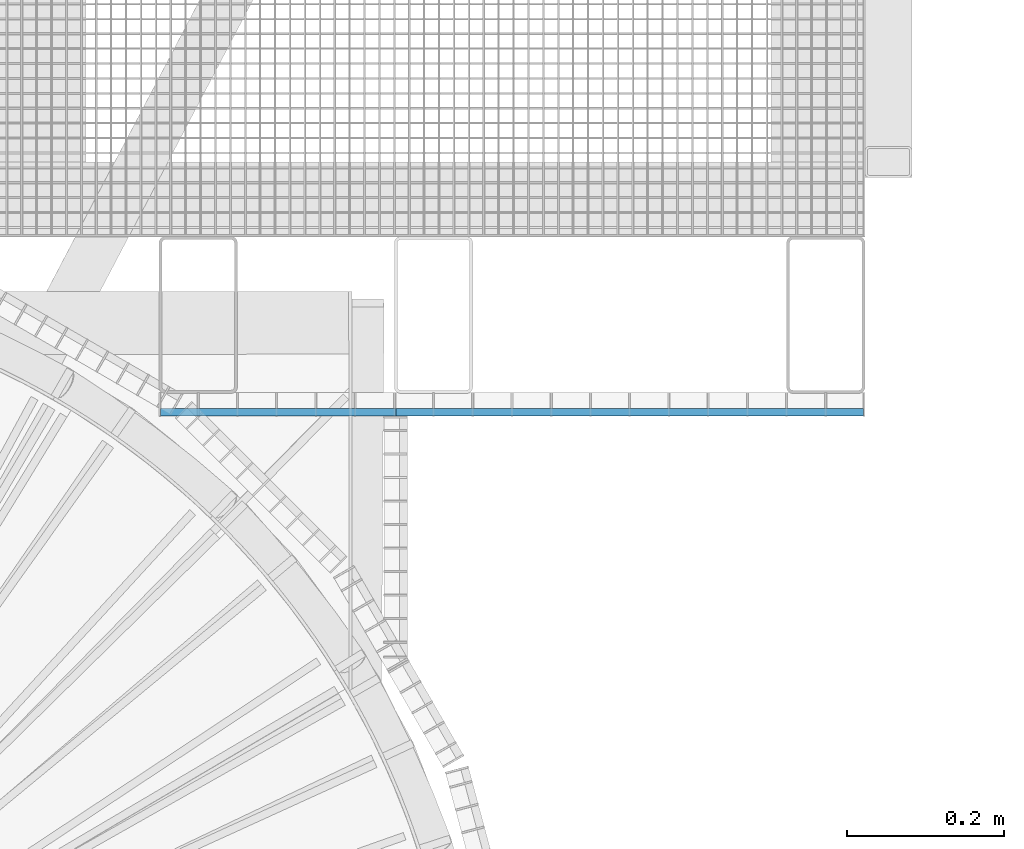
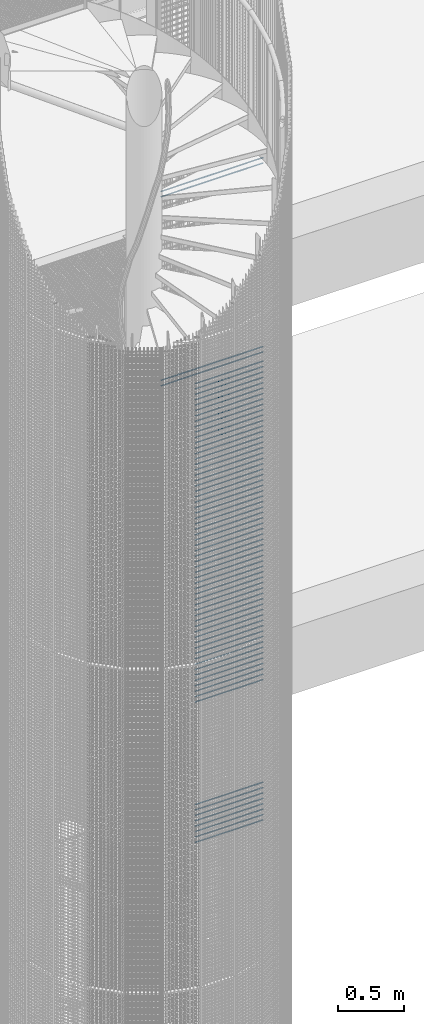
# One storey, part 306 of 1183: 72 beams, 2 elements without a shape of their own.
"""IFC2X3 building model written with IfcOpenShell, lengths in millimetres."""

from ifc_helpers import new_model, si_unit, frame, origin_with_axes, origin_2d_with_axis, place, context, subcontext, project, spatial, rectangle, extrude, material, type_object, element, aggregate, save


model = new_model("IFC2X3")

# Units and contexts
model_context = context("Model", 3, precision=1e-05, world=origin_with_axes())
body_context = subcontext(model_context, "Body", "Model", "MODEL_VIEW")
ifc_project = project(units=[si_unit("LENGTHUNIT", "METRE", prefix="MILLI"), si_unit("AREAUNIT", "SQUARE_METRE"), si_unit("VOLUMEUNIT", "CUBIC_METRE"), si_unit("MASSUNIT", "GRAM", prefix="KILO"), si_unit("TIMEUNIT", "SECOND"), si_unit("PLANEANGLEUNIT", "RADIAN"), si_unit("SOLIDANGLEUNIT", "STERADIAN"), si_unit("THERMODYNAMICTEMPERATUREUNIT", "DEGREE_CELSIUS"), si_unit("LUMINOUSINTENSITYUNIT", "LUMEN")], contexts=[model_context])

# Site, building, storey
site_placement = place(None, origin_with_axes())
site = spatial("IfcSite", under=ifc_project, at=site_placement, Name="Undefined", CompositionType="ELEMENT")
building_placement = place(site_placement, origin_with_axes())
building = spatial("IfcBuilding", under=site, at=building_placement, Name="Undefined", CompositionType="ELEMENT")
storey_placement = place(building_placement, origin_with_axes())
storey = spatial("IfcBuildingStorey", under=building, at=storey_placement, Name="Undefined", CompositionType="ELEMENT", Elevation=0.0)

# Assembly, beams
assembly_1_placement = place(storey_placement, origin_with_axes())
assembly_1 = element("IfcElementAssembly", 1, at=assembly_1_placement, inside=storey, Name="BORDURE", AssemblyPlace="NOTDEFINED", PredefinedType="NOTDEFINED")
ifc_material = material(Name="STEEL/S235JR")
beam_type = type_object("IfcBeamType", Name="PL2*10", PredefinedType="NOTDEFINED")
beam_1_placement = place(assembly_1_placement, frame((652.069589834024, 876.014689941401, 10139.998), z_axis=(0.0, -1.0, 0.0), x_axis=(1.0, 0.0, 0.0)))
beam_1 = element("IfcBeam", 2, at=beam_1_placement, type_object=beam_type, material=ifc_material, Name="ENTRETOISE", context=body_context, shape_type="SweptSolid", body=[
    extrude(rectangle(XDim=2.0, YDim=10.0, at=origin_2d_with_axis()), frame((896.0, 0.0, 0.0), z_axis=(-1.0, 0.0, 0.0), x_axis=(0.0, -1.0, 0.0)), (0.0, 0.0, 1.0), 896.0),
])
beam_2_placement = place(assembly_1_placement, frame((652.069589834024, 876.014689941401, 11839.998), z_axis=(0.0, -1.0, 0.0), x_axis=(1.0, 0.0, 0.0)))
beam_2 = element("IfcBeam", 3, at=beam_2_placement, type_object=beam_type, material=ifc_material, Name="ENTRETOISE", context=body_context, shape_type="SweptSolid", body=[
    extrude(rectangle(XDim=2.0, YDim=10.0, at=origin_2d_with_axis()), frame((896.0, 0.0, 0.0), z_axis=(-1.0, 0.0, 0.0), x_axis=(0.0, -1.0, 0.0)), (0.0, 0.0, 1.0), 896.0),
])
beam_3_placement = place(assembly_1_placement, frame((652.069589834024, 876.014689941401, 11889.998), z_axis=(0.0, -1.0, 0.0), x_axis=(1.0, 0.0, 0.0)))
beam_3 = element("IfcBeam", 4, at=beam_3_placement, type_object=beam_type, material=ifc_material, Name="ENTRETOISE", context=body_context, shape_type="SweptSolid", body=[
    extrude(rectangle(XDim=2.0, YDim=10.0, at=origin_2d_with_axis()), frame((896.0, 0.0, 0.0), z_axis=(-1.0, 0.0, 0.0), x_axis=(0.0, -1.0, 0.0)), (0.0, 0.0, 1.0), 896.0),
])
beam_4_placement = place(assembly_1_placement, frame((652.069589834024, 876.014689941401, 10089.998), z_axis=(0.0, -1.0, 0.0), x_axis=(1.0, 0.0, 0.0)))
beam_4 = element("IfcBeam", 5, at=beam_4_placement, type_object=beam_type, material=ifc_material, Name="ENTRETOISE", context=body_context, shape_type="SweptSolid", body=[
    extrude(rectangle(XDim=2.0, YDim=10.0, at=origin_2d_with_axis()), frame((896.0, 0.0, 0.0), z_axis=(-1.0, 0.0, 0.0), x_axis=(0.0, -1.0, 0.0)), (0.0, 0.0, 1.0), 896.0),
])
aggregate(assembly_1, [beam_1, beam_2, beam_3, beam_4])

assembly_2_placement = place(storey_placement, origin_with_axes())
assembly_2 = element("IfcElementAssembly", 6, at=assembly_2_placement, inside=storey, Name="BORDURE", AssemblyPlace="NOTDEFINED", PredefinedType="NOTDEFINED")
beam_5_placement = place(assembly_2_placement, frame((952.069589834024, 876.014689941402, 10004.998), z_axis=(0.0, -1.0, 0.0), x_axis=(1.0, 0.0, 0.0)))
beam_5 = element("IfcBeam", 7, at=beam_5_placement, type_object=beam_type, material=ifc_material, Name="ENTRETOISE", context=body_context, shape_type="SweptSolid", body=[
    extrude(rectangle(XDim=2.0, YDim=10.0, at=origin_2d_with_axis()), frame((596.0, 0.0, 0.0), z_axis=(-1.0, 0.0, 0.0), x_axis=(0.0, -1.0, 0.0)), (0.0, 0.0, 1.0), 596.0),
])
beam_6_placement = place(assembly_2_placement, frame((952.069589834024, 876.014689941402, 9954.998), z_axis=(0.0, -1.0, 0.0), x_axis=(1.0, 0.0, 0.0)))
beam_6 = element("IfcBeam", 8, at=beam_6_placement, type_object=beam_type, material=ifc_material, Name="ENTRETOISE", context=body_context, shape_type="SweptSolid", body=[
    extrude(rectangle(XDim=2.0, YDim=10.0, at=origin_2d_with_axis()), frame((596.0, 0.0, 0.0), z_axis=(-1.0, 0.0, 0.0), x_axis=(0.0, -1.0, 0.0)), (0.0, 0.0, 1.0), 596.0),
])
beam_7_placement = place(assembly_2_placement, frame((952.069589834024, 876.014689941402, 9904.998), z_axis=(0.0, -1.0, 0.0), x_axis=(1.0, 0.0, 0.0)))
beam_7 = element("IfcBeam", 9, at=beam_7_placement, type_object=beam_type, material=ifc_material, Name="ENTRETOISE", context=body_context, shape_type="SweptSolid", body=[
    extrude(rectangle(XDim=2.0, YDim=10.0, at=origin_2d_with_axis()), frame((596.0, 0.0, 0.0), z_axis=(-1.0, 0.0, 0.0), x_axis=(0.0, -1.0, 0.0)), (0.0, 0.0, 1.0), 596.0),
])
beam_8_placement = place(assembly_2_placement, frame((952.069589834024, 876.014689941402, 9854.998), z_axis=(0.0, -1.0, 0.0), x_axis=(1.0, 0.0, 0.0)))
beam_8 = element("IfcBeam", 10, at=beam_8_placement, type_object=beam_type, material=ifc_material, Name="ENTRETOISE", context=body_context, shape_type="SweptSolid", body=[
    extrude(rectangle(XDim=2.0, YDim=10.0, at=origin_2d_with_axis()), frame((596.0, 0.0, 0.0), z_axis=(-1.0, 0.0, 0.0), x_axis=(0.0, -1.0, 0.0)), (0.0, 0.0, 1.0), 596.0),
])
beam_9_placement = place(assembly_2_placement, frame((952.069589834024, 876.014689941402, 9804.998), z_axis=(0.0, -1.0, 0.0), x_axis=(1.0, 0.0, 0.0)))
beam_9 = element("IfcBeam", 11, at=beam_9_placement, type_object=beam_type, material=ifc_material, Name="ENTRETOISE", context=body_context, shape_type="SweptSolid", body=[
    extrude(rectangle(XDim=2.0, YDim=10.0, at=origin_2d_with_axis()), frame((596.0, 0.0, 0.0), z_axis=(-1.0, 0.0, 0.0), x_axis=(0.0, -1.0, 0.0)), (0.0, 0.0, 1.0), 596.0),
])
beam_10_placement = place(assembly_2_placement, frame((952.069589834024, 876.014689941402, 9754.998), z_axis=(0.0, -1.0, 0.0), x_axis=(1.0, 0.0, 0.0)))
beam_10 = element("IfcBeam", 12, at=beam_10_placement, type_object=beam_type, material=ifc_material, Name="ENTRETOISE", context=body_context, shape_type="SweptSolid", body=[
    extrude(rectangle(XDim=2.0, YDim=10.0, at=origin_2d_with_axis()), frame((596.0, 0.0, 0.0), z_axis=(-1.0, 0.0, 0.0), x_axis=(0.0, -1.0, 0.0)), (0.0, 0.0, 1.0), 596.0),
])
beam_11_placement = place(assembly_2_placement, frame((952.069589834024, 876.014689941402, 9704.998), z_axis=(0.0, -1.0, 0.0), x_axis=(1.0, 0.0, 0.0)))
beam_11 = element("IfcBeam", 13, at=beam_11_placement, type_object=beam_type, material=ifc_material, Name="ENTRETOISE", context=body_context, shape_type="SweptSolid", body=[
    extrude(rectangle(XDim=2.0, YDim=10.0, at=origin_2d_with_axis()), frame((596.0, 0.0, 0.0), z_axis=(-1.0, 0.0, 0.0), x_axis=(0.0, -1.0, 0.0)), (0.0, 0.0, 1.0), 596.0),
])
beam_12_placement = place(assembly_2_placement, frame((952.069589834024, 876.014689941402, 9654.998), z_axis=(0.0, -1.0, 0.0), x_axis=(1.0, 0.0, 0.0)))
beam_12 = element("IfcBeam", 14, at=beam_12_placement, type_object=beam_type, material=ifc_material, Name="ENTRETOISE", context=body_context, shape_type="SweptSolid", body=[
    extrude(rectangle(XDim=2.0, YDim=10.0, at=origin_2d_with_axis()), frame((596.0, 0.0, 0.0), z_axis=(-1.0, 0.0, 0.0), x_axis=(0.0, -1.0, 0.0)), (0.0, 0.0, 1.0), 596.0),
])
beam_13_placement = place(assembly_2_placement, frame((952.069589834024, 876.014689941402, 9604.998), z_axis=(0.0, -1.0, 0.0), x_axis=(1.0, 0.0, 0.0)))
beam_13 = element("IfcBeam", 15, at=beam_13_placement, type_object=beam_type, material=ifc_material, Name="ENTRETOISE", context=body_context, shape_type="SweptSolid", body=[
    extrude(rectangle(XDim=2.0, YDim=10.0, at=origin_2d_with_axis()), frame((596.0, 0.0, 0.0), z_axis=(-1.0, 0.0, 0.0), x_axis=(0.0, -1.0, 0.0)), (0.0, 0.0, 1.0), 596.0),
])
beam_14_placement = place(assembly_2_placement, frame((952.069589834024, 876.014689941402, 9554.998), z_axis=(0.0, -1.0, 0.0), x_axis=(1.0, 0.0, 0.0)))
beam_14 = element("IfcBeam", 16, at=beam_14_placement, type_object=beam_type, material=ifc_material, Name="ENTRETOISE", context=body_context, shape_type="SweptSolid", body=[
    extrude(rectangle(XDim=2.0, YDim=10.0, at=origin_2d_with_axis()), frame((596.0, 0.0, 0.0), z_axis=(-1.0, 0.0, 0.0), x_axis=(0.0, -1.0, 0.0)), (0.0, 0.0, 1.0), 596.0),
])
beam_15_placement = place(assembly_2_placement, frame((952.069589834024, 876.014689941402, 9504.998), z_axis=(0.0, -1.0, 0.0), x_axis=(1.0, 0.0, 0.0)))
beam_15 = element("IfcBeam", 17, at=beam_15_placement, type_object=beam_type, material=ifc_material, Name="ENTRETOISE", context=body_context, shape_type="SweptSolid", body=[
    extrude(rectangle(XDim=2.0, YDim=10.0, at=origin_2d_with_axis()), frame((596.0, 0.0, 0.0), z_axis=(-1.0, 0.0, 0.0), x_axis=(0.0, -1.0, 0.0)), (0.0, 0.0, 1.0), 596.0),
])
beam_16_placement = place(assembly_2_placement, frame((952.069589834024, 876.014689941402, 9454.998), z_axis=(0.0, -1.0, 0.0), x_axis=(1.0, 0.0, 0.0)))
beam_16 = element("IfcBeam", 18, at=beam_16_placement, type_object=beam_type, material=ifc_material, Name="ENTRETOISE", context=body_context, shape_type="SweptSolid", body=[
    extrude(rectangle(XDim=2.0, YDim=10.0, at=origin_2d_with_axis()), frame((596.0, 0.0, 0.0), z_axis=(-1.0, 0.0, 0.0), x_axis=(0.0, -1.0, 0.0)), (0.0, 0.0, 1.0), 596.0),
])
beam_17_placement = place(assembly_2_placement, frame((952.069589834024, 876.014689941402, 9404.998), z_axis=(0.0, -1.0, 0.0), x_axis=(1.0, 0.0, 0.0)))
beam_17 = element("IfcBeam", 19, at=beam_17_placement, type_object=beam_type, material=ifc_material, Name="ENTRETOISE", context=body_context, shape_type="SweptSolid", body=[
    extrude(rectangle(XDim=2.0, YDim=10.0, at=origin_2d_with_axis()), frame((596.0, 0.0, 0.0), z_axis=(-1.0, 0.0, 0.0), x_axis=(0.0, -1.0, 0.0)), (0.0, 0.0, 1.0), 596.0),
])
beam_18_placement = place(assembly_2_placement, frame((952.069589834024, 876.014689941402, 9354.998), z_axis=(0.0, -1.0, 0.0), x_axis=(1.0, 0.0, 0.0)))
beam_18 = element("IfcBeam", 20, at=beam_18_placement, type_object=beam_type, material=ifc_material, Name="ENTRETOISE", context=body_context, shape_type="SweptSolid", body=[
    extrude(rectangle(XDim=2.0, YDim=10.0, at=origin_2d_with_axis()), frame((596.0, 0.0, 0.0), z_axis=(-1.0, 0.0, 0.0), x_axis=(0.0, -1.0, 0.0)), (0.0, 0.0, 1.0), 596.0),
])
beam_19_placement = place(assembly_2_placement, frame((952.069589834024, 876.014689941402, 9304.998), z_axis=(0.0, -1.0, 0.0), x_axis=(1.0, 0.0, 0.0)))
beam_19 = element("IfcBeam", 21, at=beam_19_placement, type_object=beam_type, material=ifc_material, Name="ENTRETOISE", context=body_context, shape_type="SweptSolid", body=[
    extrude(rectangle(XDim=2.0, YDim=10.0, at=origin_2d_with_axis()), frame((596.0, 0.0, 0.0), z_axis=(-1.0, 0.0, 0.0), x_axis=(0.0, -1.0, 0.0)), (0.0, 0.0, 1.0), 596.0),
])
beam_20_placement = place(assembly_2_placement, frame((952.069589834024, 876.014689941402, 9254.998), z_axis=(0.0, -1.0, 0.0), x_axis=(1.0, 0.0, 0.0)))
beam_20 = element("IfcBeam", 22, at=beam_20_placement, type_object=beam_type, material=ifc_material, Name="ENTRETOISE", context=body_context, shape_type="SweptSolid", body=[
    extrude(rectangle(XDim=2.0, YDim=10.0, at=origin_2d_with_axis()), frame((596.0, 0.0, 0.0), z_axis=(-1.0, 0.0, 0.0), x_axis=(0.0, -1.0, 0.0)), (0.0, 0.0, 1.0), 596.0),
])
beam_21_placement = place(assembly_2_placement, frame((952.069589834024, 876.014689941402, 9204.998), z_axis=(0.0, -1.0, 0.0), x_axis=(1.0, 0.0, 0.0)))
beam_21 = element("IfcBeam", 23, at=beam_21_placement, type_object=beam_type, material=ifc_material, Name="ENTRETOISE", context=body_context, shape_type="SweptSolid", body=[
    extrude(rectangle(XDim=2.0, YDim=10.0, at=origin_2d_with_axis()), frame((596.0, 0.0, 0.0), z_axis=(-1.0, 0.0, 0.0), x_axis=(0.0, -1.0, 0.0)), (0.0, 0.0, 1.0), 596.0),
])
beam_22_placement = place(assembly_2_placement, frame((952.069589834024, 876.014689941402, 9154.998), z_axis=(0.0, -1.0, 0.0), x_axis=(1.0, 0.0, 0.0)))
beam_22 = element("IfcBeam", 24, at=beam_22_placement, type_object=beam_type, material=ifc_material, Name="ENTRETOISE", context=body_context, shape_type="SweptSolid", body=[
    extrude(rectangle(XDim=2.0, YDim=10.0, at=origin_2d_with_axis()), frame((596.0, 0.0, 0.0), z_axis=(-1.0, 0.0, 0.0), x_axis=(0.0, -1.0, 0.0)), (0.0, 0.0, 1.0), 596.0),
])
beam_23_placement = place(assembly_2_placement, frame((952.069589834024, 876.014689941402, 9104.998), z_axis=(0.0, -1.0, 0.0), x_axis=(1.0, 0.0, 0.0)))
beam_23 = element("IfcBeam", 25, at=beam_23_placement, type_object=beam_type, material=ifc_material, Name="ENTRETOISE", context=body_context, shape_type="SweptSolid", body=[
    extrude(rectangle(XDim=2.0, YDim=10.0, at=origin_2d_with_axis()), frame((596.0, 0.0, 0.0), z_axis=(-1.0, 0.0, 0.0), x_axis=(0.0, -1.0, 0.0)), (0.0, 0.0, 1.0), 596.0),
])
beam_24_placement = place(assembly_2_placement, frame((952.069589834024, 876.014689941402, 9054.998), z_axis=(0.0, -1.0, 0.0), x_axis=(1.0, 0.0, 0.0)))
beam_24 = element("IfcBeam", 26, at=beam_24_placement, type_object=beam_type, material=ifc_material, Name="ENTRETOISE", context=body_context, shape_type="SweptSolid", body=[
    extrude(rectangle(XDim=2.0, YDim=10.0, at=origin_2d_with_axis()), frame((596.0, 0.0, 0.0), z_axis=(-1.0, 0.0, 0.0), x_axis=(0.0, -1.0, 0.0)), (0.0, 0.0, 1.0), 596.0),
])
beam_25_placement = place(assembly_2_placement, frame((952.069589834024, 876.014689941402, 9004.998), z_axis=(0.0, -1.0, 0.0), x_axis=(1.0, 0.0, 0.0)))
beam_25 = element("IfcBeam", 27, at=beam_25_placement, type_object=beam_type, material=ifc_material, Name="ENTRETOISE", context=body_context, shape_type="SweptSolid", body=[
    extrude(rectangle(XDim=2.0, YDim=10.0, at=origin_2d_with_axis()), frame((596.0, 0.0, 0.0), z_axis=(-1.0, 0.0, 0.0), x_axis=(0.0, -1.0, 0.0)), (0.0, 0.0, 1.0), 596.0),
])
beam_26_placement = place(assembly_2_placement, frame((952.069589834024, 876.014689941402, 8954.998), z_axis=(0.0, -1.0, 0.0), x_axis=(1.0, 0.0, 0.0)))
beam_26 = element("IfcBeam", 28, at=beam_26_placement, type_object=beam_type, material=ifc_material, Name="ENTRETOISE", context=body_context, shape_type="SweptSolid", body=[
    extrude(rectangle(XDim=2.0, YDim=10.0, at=origin_2d_with_axis()), frame((596.0, 0.0, 0.0), z_axis=(-1.0, 0.0, 0.0), x_axis=(0.0, -1.0, 0.0)), (0.0, 0.0, 1.0), 596.0),
])
beam_27_placement = place(assembly_2_placement, frame((952.069589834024, 876.014689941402, 8904.998), z_axis=(0.0, -1.0, 0.0), x_axis=(1.0, 0.0, 0.0)))
beam_27 = element("IfcBeam", 29, at=beam_27_placement, type_object=beam_type, material=ifc_material, Name="ENTRETOISE", context=body_context, shape_type="SweptSolid", body=[
    extrude(rectangle(XDim=2.0, YDim=10.0, at=origin_2d_with_axis()), frame((596.0, 0.0, 0.0), z_axis=(-1.0, 0.0, 0.0), x_axis=(0.0, -1.0, 0.0)), (0.0, 0.0, 1.0), 596.0),
])
beam_28_placement = place(assembly_2_placement, frame((952.069589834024, 876.014689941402, 8854.998), z_axis=(0.0, -1.0, 0.0), x_axis=(1.0, 0.0, 0.0)))
beam_28 = element("IfcBeam", 30, at=beam_28_placement, type_object=beam_type, material=ifc_material, Name="ENTRETOISE", context=body_context, shape_type="SweptSolid", body=[
    extrude(rectangle(XDim=2.0, YDim=10.0, at=origin_2d_with_axis()), frame((596.0, 0.0, 0.0), z_axis=(-1.0, 0.0, 0.0), x_axis=(0.0, -1.0, 0.0)), (0.0, 0.0, 1.0), 596.0),
])
beam_29_placement = place(assembly_2_placement, frame((952.069589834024, 876.014689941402, 8804.998), z_axis=(0.0, -1.0, 0.0), x_axis=(1.0, 0.0, 0.0)))
beam_29 = element("IfcBeam", 31, at=beam_29_placement, type_object=beam_type, material=ifc_material, Name="ENTRETOISE", context=body_context, shape_type="SweptSolid", body=[
    extrude(rectangle(XDim=2.0, YDim=10.0, at=origin_2d_with_axis()), frame((596.0, 0.0, 0.0), z_axis=(-1.0, 0.0, 0.0), x_axis=(0.0, -1.0, 0.0)), (0.0, 0.0, 1.0), 596.0),
])
beam_30_placement = place(assembly_2_placement, frame((952.069589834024, 876.014689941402, 8754.998), z_axis=(0.0, -1.0, 0.0), x_axis=(1.0, 0.0, 0.0)))
beam_30 = element("IfcBeam", 32, at=beam_30_placement, type_object=beam_type, material=ifc_material, Name="ENTRETOISE", context=body_context, shape_type="SweptSolid", body=[
    extrude(rectangle(XDim=2.0, YDim=10.0, at=origin_2d_with_axis()), frame((596.0, 0.0, 0.0), z_axis=(-1.0, 0.0, 0.0), x_axis=(0.0, -1.0, 0.0)), (0.0, 0.0, 1.0), 596.0),
])
beam_31_placement = place(assembly_2_placement, frame((952.069589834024, 876.014689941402, 8704.998), z_axis=(0.0, -1.0, 0.0), x_axis=(1.0, 0.0, 0.0)))
beam_31 = element("IfcBeam", 33, at=beam_31_placement, type_object=beam_type, material=ifc_material, Name="ENTRETOISE", context=body_context, shape_type="SweptSolid", body=[
    extrude(rectangle(XDim=2.0, YDim=10.0, at=origin_2d_with_axis()), frame((596.0, 0.0, 0.0), z_axis=(-1.0, 0.0, 0.0), x_axis=(0.0, -1.0, 0.0)), (0.0, 0.0, 1.0), 596.0),
])
beam_32_placement = place(assembly_2_placement, frame((952.069589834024, 876.014689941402, 8654.998), z_axis=(0.0, -1.0, 0.0), x_axis=(1.0, 0.0, 0.0)))
beam_32 = element("IfcBeam", 34, at=beam_32_placement, type_object=beam_type, material=ifc_material, Name="ENTRETOISE", context=body_context, shape_type="SweptSolid", body=[
    extrude(rectangle(XDim=2.0, YDim=10.0, at=origin_2d_with_axis()), frame((596.0, 0.0, 0.0), z_axis=(-1.0, 0.0, 0.0), x_axis=(0.0, -1.0, 0.0)), (0.0, 0.0, 1.0), 596.0),
])
beam_33_placement = place(assembly_2_placement, frame((952.069589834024, 876.014689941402, 8604.998), z_axis=(0.0, -1.0, 0.0), x_axis=(1.0, 0.0, 0.0)))
beam_33 = element("IfcBeam", 35, at=beam_33_placement, type_object=beam_type, material=ifc_material, Name="ENTRETOISE", context=body_context, shape_type="SweptSolid", body=[
    extrude(rectangle(XDim=2.0, YDim=10.0, at=origin_2d_with_axis()), frame((596.0, 0.0, 0.0), z_axis=(-1.0, 0.0, 0.0), x_axis=(0.0, -1.0, 0.0)), (0.0, 0.0, 1.0), 596.0),
])
beam_34_placement = place(assembly_2_placement, frame((952.069589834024, 876.014689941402, 8554.998), z_axis=(0.0, -1.0, 0.0), x_axis=(1.0, 0.0, 0.0)))
beam_34 = element("IfcBeam", 36, at=beam_34_placement, type_object=beam_type, material=ifc_material, Name="ENTRETOISE", context=body_context, shape_type="SweptSolid", body=[
    extrude(rectangle(XDim=2.0, YDim=10.0, at=origin_2d_with_axis()), frame((596.0, 0.0, 0.0), z_axis=(-1.0, 0.0, 0.0), x_axis=(0.0, -1.0, 0.0)), (0.0, 0.0, 1.0), 596.0),
])
beam_35_placement = place(assembly_2_placement, frame((952.069589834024, 876.014689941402, 8504.998), z_axis=(0.0, -1.0, 0.0), x_axis=(1.0, 0.0, 0.0)))
beam_35 = element("IfcBeam", 37, at=beam_35_placement, type_object=beam_type, material=ifc_material, Name="ENTRETOISE", context=body_context, shape_type="SweptSolid", body=[
    extrude(rectangle(XDim=2.0, YDim=10.0, at=origin_2d_with_axis()), frame((596.0, 0.0, 0.0), z_axis=(-1.0, 0.0, 0.0), x_axis=(0.0, -1.0, 0.0)), (0.0, 0.0, 1.0), 596.0),
])
beam_36_placement = place(assembly_2_placement, frame((952.069589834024, 876.014689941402, 8454.998), z_axis=(0.0, -1.0, 0.0), x_axis=(1.0, 0.0, 0.0)))
beam_36 = element("IfcBeam", 38, at=beam_36_placement, type_object=beam_type, material=ifc_material, Name="ENTRETOISE", context=body_context, shape_type="SweptSolid", body=[
    extrude(rectangle(XDim=2.0, YDim=10.0, at=origin_2d_with_axis()), frame((596.0, 0.0, 0.0), z_axis=(-1.0, 0.0, 0.0), x_axis=(0.0, -1.0, 0.0)), (0.0, 0.0, 1.0), 596.0),
])
beam_37_placement = place(assembly_2_placement, frame((952.069589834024, 876.014689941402, 8404.998), z_axis=(0.0, -1.0, 0.0), x_axis=(1.0, 0.0, 0.0)))
beam_37 = element("IfcBeam", 39, at=beam_37_placement, type_object=beam_type, material=ifc_material, Name="ENTRETOISE", context=body_context, shape_type="SweptSolid", body=[
    extrude(rectangle(XDim=2.0, YDim=10.0, at=origin_2d_with_axis()), frame((596.0, 0.0, 0.0), z_axis=(-1.0, 0.0, 0.0), x_axis=(0.0, -1.0, 0.0)), (0.0, 0.0, 1.0), 596.0),
])
beam_38_placement = place(assembly_2_placement, frame((952.069589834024, 876.014689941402, 8354.998), z_axis=(0.0, -1.0, 0.0), x_axis=(1.0, 0.0, 0.0)))
beam_38 = element("IfcBeam", 40, at=beam_38_placement, type_object=beam_type, material=ifc_material, Name="ENTRETOISE", context=body_context, shape_type="SweptSolid", body=[
    extrude(rectangle(XDim=2.0, YDim=10.0, at=origin_2d_with_axis()), frame((596.0, 0.0, 0.0), z_axis=(-1.0, 0.0, 0.0), x_axis=(0.0, -1.0, 0.0)), (0.0, 0.0, 1.0), 596.0),
])
beam_39_placement = place(assembly_2_placement, frame((952.069589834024, 876.014689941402, 8304.998), z_axis=(0.0, -1.0, 0.0), x_axis=(1.0, 0.0, 0.0)))
beam_39 = element("IfcBeam", 41, at=beam_39_placement, type_object=beam_type, material=ifc_material, Name="ENTRETOISE", context=body_context, shape_type="SweptSolid", body=[
    extrude(rectangle(XDim=2.0, YDim=10.0, at=origin_2d_with_axis()), frame((596.0, 0.0, 0.0), z_axis=(-1.0, 0.0, 0.0), x_axis=(0.0, -1.0, 0.0)), (0.0, 0.0, 1.0), 596.0),
])
beam_40_placement = place(assembly_2_placement, frame((952.069589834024, 876.014689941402, 8254.998), z_axis=(0.0, -1.0, 0.0), x_axis=(1.0, 0.0, 0.0)))
beam_40 = element("IfcBeam", 42, at=beam_40_placement, type_object=beam_type, material=ifc_material, Name="ENTRETOISE", context=body_context, shape_type="SweptSolid", body=[
    extrude(rectangle(XDim=2.0, YDim=10.0, at=origin_2d_with_axis()), frame((596.0, 0.0, 0.0), z_axis=(-1.0, 0.0, 0.0), x_axis=(0.0, -1.0, 0.0)), (0.0, 0.0, 1.0), 596.0),
])
beam_41_placement = place(assembly_2_placement, frame((952.069589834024, 876.014689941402, 8204.998), z_axis=(0.0, -1.0, 0.0), x_axis=(1.0, 0.0, 0.0)))
beam_41 = element("IfcBeam", 43, at=beam_41_placement, type_object=beam_type, material=ifc_material, Name="ENTRETOISE", context=body_context, shape_type="SweptSolid", body=[
    extrude(rectangle(XDim=2.0, YDim=10.0, at=origin_2d_with_axis()), frame((596.0, 0.0, 0.0), z_axis=(-1.0, 0.0, 0.0), x_axis=(0.0, -1.0, 0.0)), (0.0, 0.0, 1.0), 596.0),
])
beam_42_placement = place(assembly_2_placement, frame((952.069589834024, 876.014689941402, 8154.998), z_axis=(0.0, -1.0, 0.0), x_axis=(1.0, 0.0, 0.0)))
beam_42 = element("IfcBeam", 44, at=beam_42_placement, type_object=beam_type, material=ifc_material, Name="ENTRETOISE", context=body_context, shape_type="SweptSolid", body=[
    extrude(rectangle(XDim=2.0, YDim=10.0, at=origin_2d_with_axis()), frame((596.0, 0.0, 0.0), z_axis=(-1.0, 0.0, 0.0), x_axis=(0.0, -1.0, 0.0)), (0.0, 0.0, 1.0), 596.0),
])
beam_43_placement = place(assembly_2_placement, frame((952.069589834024, 876.014689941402, 8104.998), z_axis=(0.0, -1.0, 0.0), x_axis=(1.0, 0.0, 0.0)))
beam_43 = element("IfcBeam", 45, at=beam_43_placement, type_object=beam_type, material=ifc_material, Name="ENTRETOISE", context=body_context, shape_type="SweptSolid", body=[
    extrude(rectangle(XDim=2.0, YDim=10.0, at=origin_2d_with_axis()), frame((596.0, 0.0, 0.0), z_axis=(-1.0, 0.0, 0.0), x_axis=(0.0, -1.0, 0.0)), (0.0, 0.0, 1.0), 596.0),
])
beam_44_placement = place(assembly_2_placement, frame((952.069589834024, 876.014689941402, 8054.998), z_axis=(0.0, -1.0, 0.0), x_axis=(1.0, 0.0, 0.0)))
beam_44 = element("IfcBeam", 46, at=beam_44_placement, type_object=beam_type, material=ifc_material, Name="ENTRETOISE", context=body_context, shape_type="SweptSolid", body=[
    extrude(rectangle(XDim=2.0, YDim=10.0, at=origin_2d_with_axis()), frame((596.0, 0.0, 0.0), z_axis=(-1.0, 0.0, 0.0), x_axis=(0.0, -1.0, 0.0)), (0.0, 0.0, 1.0), 596.0),
])
beam_45_placement = place(assembly_2_placement, frame((952.069589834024, 876.014689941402, 8004.998), z_axis=(0.0, -1.0, 0.0), x_axis=(1.0, 0.0, 0.0)))
beam_45 = element("IfcBeam", 47, at=beam_45_placement, type_object=beam_type, material=ifc_material, Name="ENTRETOISE", context=body_context, shape_type="SweptSolid", body=[
    extrude(rectangle(XDim=2.0, YDim=10.0, at=origin_2d_with_axis()), frame((596.0, 0.0, 0.0), z_axis=(-1.0, 0.0, 0.0), x_axis=(0.0, -1.0, 0.0)), (0.0, 0.0, 1.0), 596.0),
])
beam_46_placement = place(assembly_2_placement, frame((952.069589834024, 876.014689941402, 7954.998), z_axis=(0.0, -1.0, 0.0), x_axis=(1.0, 0.0, 0.0)))
beam_46 = element("IfcBeam", 48, at=beam_46_placement, type_object=beam_type, material=ifc_material, Name="ENTRETOISE", context=body_context, shape_type="SweptSolid", body=[
    extrude(rectangle(XDim=2.0, YDim=10.0, at=origin_2d_with_axis()), frame((596.0, 0.0, 0.0), z_axis=(-1.0, 0.0, 0.0), x_axis=(0.0, -1.0, 0.0)), (0.0, 0.0, 1.0), 596.0),
])
beam_47_placement = place(assembly_2_placement, frame((952.069589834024, 876.014689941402, 7904.998), z_axis=(0.0, -1.0, 0.0), x_axis=(1.0, 0.0, 0.0)))
beam_47 = element("IfcBeam", 49, at=beam_47_placement, type_object=beam_type, material=ifc_material, Name="ENTRETOISE", context=body_context, shape_type="SweptSolid", body=[
    extrude(rectangle(XDim=2.0, YDim=10.0, at=origin_2d_with_axis()), frame((596.0, 0.0, 0.0), z_axis=(-1.0, 0.0, 0.0), x_axis=(0.0, -1.0, 0.0)), (0.0, 0.0, 1.0), 596.0),
])
beam_48_placement = place(assembly_2_placement, frame((952.069589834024, 876.014689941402, 7854.998), z_axis=(0.0, -1.0, 0.0), x_axis=(1.0, 0.0, 0.0)))
beam_48 = element("IfcBeam", 50, at=beam_48_placement, type_object=beam_type, material=ifc_material, Name="ENTRETOISE", context=body_context, shape_type="SweptSolid", body=[
    extrude(rectangle(XDim=2.0, YDim=10.0, at=origin_2d_with_axis()), frame((596.0, 0.0, 0.0), z_axis=(-1.0, 0.0, 0.0), x_axis=(0.0, -1.0, 0.0)), (0.0, 0.0, 1.0), 596.0),
])
beam_49_placement = place(assembly_2_placement, frame((952.069589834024, 876.014689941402, 7804.998), z_axis=(0.0, -1.0, 0.0), x_axis=(1.0, 0.0, 0.0)))
beam_49 = element("IfcBeam", 51, at=beam_49_placement, type_object=beam_type, material=ifc_material, Name="ENTRETOISE", context=body_context, shape_type="SweptSolid", body=[
    extrude(rectangle(XDim=2.0, YDim=10.0, at=origin_2d_with_axis()), frame((596.0, 0.0, 0.0), z_axis=(-1.0, 0.0, 0.0), x_axis=(0.0, -1.0, 0.0)), (0.0, 0.0, 1.0), 596.0),
])
beam_50_placement = place(assembly_2_placement, frame((952.069589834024, 876.014689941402, 7754.998), z_axis=(0.0, -1.0, 0.0), x_axis=(1.0, 0.0, 0.0)))
beam_50 = element("IfcBeam", 52, at=beam_50_placement, type_object=beam_type, material=ifc_material, Name="ENTRETOISE", context=body_context, shape_type="SweptSolid", body=[
    extrude(rectangle(XDim=2.0, YDim=10.0, at=origin_2d_with_axis()), frame((596.0, 0.0, 0.0), z_axis=(-1.0, 0.0, 0.0), x_axis=(0.0, -1.0, 0.0)), (0.0, 0.0, 1.0), 596.0),
])
beam_51_placement = place(assembly_2_placement, frame((952.069589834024, 876.014689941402, 7704.998), z_axis=(0.0, -1.0, 0.0), x_axis=(1.0, 0.0, 0.0)))
beam_51 = element("IfcBeam", 53, at=beam_51_placement, type_object=beam_type, material=ifc_material, Name="ENTRETOISE", context=body_context, shape_type="SweptSolid", body=[
    extrude(rectangle(XDim=2.0, YDim=10.0, at=origin_2d_with_axis()), frame((596.0, 0.0, 0.0), z_axis=(-1.0, 0.0, 0.0), x_axis=(0.0, -1.0, 0.0)), (0.0, 0.0, 1.0), 596.0),
])
beam_52_placement = place(assembly_2_placement, frame((952.069589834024, 876.014689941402, 7654.998), z_axis=(0.0, -1.0, 0.0), x_axis=(1.0, 0.0, 0.0)))
beam_52 = element("IfcBeam", 54, at=beam_52_placement, type_object=beam_type, material=ifc_material, Name="ENTRETOISE", context=body_context, shape_type="SweptSolid", body=[
    extrude(rectangle(XDim=2.0, YDim=10.0, at=origin_2d_with_axis()), frame((596.0, 0.0, 0.0), z_axis=(-1.0, 0.0, 0.0), x_axis=(0.0, -1.0, 0.0)), (0.0, 0.0, 1.0), 596.0),
])
beam_53_placement = place(assembly_2_placement, frame((952.069589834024, 876.014689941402, 7604.998), z_axis=(0.0, -1.0, 0.0), x_axis=(1.0, 0.0, 0.0)))
beam_53 = element("IfcBeam", 55, at=beam_53_placement, type_object=beam_type, material=ifc_material, Name="ENTRETOISE", context=body_context, shape_type="SweptSolid", body=[
    extrude(rectangle(XDim=2.0, YDim=10.0, at=origin_2d_with_axis()), frame((596.0, 0.0, 0.0), z_axis=(-1.0, 0.0, 0.0), x_axis=(0.0, -1.0, 0.0)), (0.0, 0.0, 1.0), 596.0),
])
beam_54_placement = place(assembly_2_placement, frame((952.069589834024, 876.014689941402, 7554.998), z_axis=(0.0, -1.0, 0.0), x_axis=(1.0, 0.0, 0.0)))
beam_54 = element("IfcBeam", 56, at=beam_54_placement, type_object=beam_type, material=ifc_material, Name="ENTRETOISE", context=body_context, shape_type="SweptSolid", body=[
    extrude(rectangle(XDim=2.0, YDim=10.0, at=origin_2d_with_axis()), frame((596.0, 0.0, 0.0), z_axis=(-1.0, 0.0, 0.0), x_axis=(0.0, -1.0, 0.0)), (0.0, 0.0, 1.0), 596.0),
])
beam_55_placement = place(assembly_2_placement, frame((952.069589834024, 876.014689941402, 7504.998), z_axis=(0.0, -1.0, 0.0), x_axis=(1.0, 0.0, 0.0)))
beam_55 = element("IfcBeam", 57, at=beam_55_placement, type_object=beam_type, material=ifc_material, Name="ENTRETOISE", context=body_context, shape_type="SweptSolid", body=[
    extrude(rectangle(XDim=2.0, YDim=10.0, at=origin_2d_with_axis()), frame((596.0, 0.0, 0.0), z_axis=(-1.0, 0.0, 0.0), x_axis=(0.0, -1.0, 0.0)), (0.0, 0.0, 1.0), 596.0),
])
beam_56_placement = place(assembly_2_placement, frame((952.069589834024, 876.014689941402, 7454.998), z_axis=(0.0, -1.0, 0.0), x_axis=(1.0, 0.0, 0.0)))
beam_56 = element("IfcBeam", 58, at=beam_56_placement, type_object=beam_type, material=ifc_material, Name="ENTRETOISE", context=body_context, shape_type="SweptSolid", body=[
    extrude(rectangle(XDim=2.0, YDim=10.0, at=origin_2d_with_axis()), frame((596.0, 0.0, 0.0), z_axis=(-1.0, 0.0, 0.0), x_axis=(0.0, -1.0, 0.0)), (0.0, 0.0, 1.0), 596.0),
])
beam_57_placement = place(assembly_2_placement, frame((952.069589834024, 876.014689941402, 7404.998), z_axis=(0.0, -1.0, 0.0), x_axis=(1.0, 0.0, 0.0)))
beam_57 = element("IfcBeam", 59, at=beam_57_placement, type_object=beam_type, material=ifc_material, Name="ENTRETOISE", context=body_context, shape_type="SweptSolid", body=[
    extrude(rectangle(XDim=2.0, YDim=10.0, at=origin_2d_with_axis()), frame((596.0, 0.0, 0.0), z_axis=(-1.0, 0.0, 0.0), x_axis=(0.0, -1.0, 0.0)), (0.0, 0.0, 1.0), 596.0),
])
beam_58_placement = place(assembly_2_placement, frame((952.069589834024, 876.014689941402, 7354.998), z_axis=(0.0, -1.0, 0.0), x_axis=(1.0, 0.0, 0.0)))
beam_58 = element("IfcBeam", 60, at=beam_58_placement, type_object=beam_type, material=ifc_material, Name="ENTRETOISE", context=body_context, shape_type="SweptSolid", body=[
    extrude(rectangle(XDim=2.0, YDim=10.0, at=origin_2d_with_axis()), frame((596.0, 0.0, 0.0), z_axis=(-1.0, 0.0, 0.0), x_axis=(0.0, -1.0, 0.0)), (0.0, 0.0, 1.0), 596.0),
])
beam_59_placement = place(assembly_2_placement, frame((952.069589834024, 876.014689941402, 7304.998), z_axis=(0.0, -1.0, 0.0), x_axis=(1.0, 0.0, 0.0)))
beam_59 = element("IfcBeam", 61, at=beam_59_placement, type_object=beam_type, material=ifc_material, Name="ENTRETOISE", context=body_context, shape_type="SweptSolid", body=[
    extrude(rectangle(XDim=2.0, YDim=10.0, at=origin_2d_with_axis()), frame((596.0, 0.0, 0.0), z_axis=(-1.0, 0.0, 0.0), x_axis=(0.0, -1.0, 0.0)), (0.0, 0.0, 1.0), 596.0),
])
beam_60_placement = place(assembly_2_placement, frame((952.069589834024, 876.014689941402, 7254.998), z_axis=(0.0, -1.0, 0.0), x_axis=(1.0, 0.0, 0.0)))
beam_60 = element("IfcBeam", 62, at=beam_60_placement, type_object=beam_type, material=ifc_material, Name="ENTRETOISE", context=body_context, shape_type="SweptSolid", body=[
    extrude(rectangle(XDim=2.0, YDim=10.0, at=origin_2d_with_axis()), frame((596.0, 0.0, 0.0), z_axis=(-1.0, 0.0, 0.0), x_axis=(0.0, -1.0, 0.0)), (0.0, 0.0, 1.0), 596.0),
])
beam_61_placement = place(assembly_2_placement, frame((952.069589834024, 876.014689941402, 7204.998), z_axis=(0.0, -1.0, 0.0), x_axis=(1.0, 0.0, 0.0)))
beam_61 = element("IfcBeam", 63, at=beam_61_placement, type_object=beam_type, material=ifc_material, Name="ENTRETOISE", context=body_context, shape_type="SweptSolid", body=[
    extrude(rectangle(XDim=2.0, YDim=10.0, at=origin_2d_with_axis()), frame((596.0, 0.0, 0.0), z_axis=(-1.0, 0.0, 0.0), x_axis=(0.0, -1.0, 0.0)), (0.0, 0.0, 1.0), 596.0),
])
beam_62_placement = place(assembly_2_placement, frame((952.069589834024, 876.014689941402, 7154.998), z_axis=(0.0, -1.0, 0.0), x_axis=(1.0, 0.0, 0.0)))
beam_62 = element("IfcBeam", 64, at=beam_62_placement, type_object=beam_type, material=ifc_material, Name="ENTRETOISE", context=body_context, shape_type="SweptSolid", body=[
    extrude(rectangle(XDim=2.0, YDim=10.0, at=origin_2d_with_axis()), frame((596.0, 0.0, 0.0), z_axis=(-1.0, 0.0, 0.0), x_axis=(0.0, -1.0, 0.0)), (0.0, 0.0, 1.0), 596.0),
])
beam_63_placement = place(assembly_2_placement, frame((952.069589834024, 876.014689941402, 7104.998), z_axis=(0.0, -1.0, 0.0), x_axis=(1.0, 0.0, 0.0)))
beam_63 = element("IfcBeam", 65, at=beam_63_placement, type_object=beam_type, material=ifc_material, Name="ENTRETOISE", context=body_context, shape_type="SweptSolid", body=[
    extrude(rectangle(XDim=2.0, YDim=10.0, at=origin_2d_with_axis()), frame((596.0, 0.0, 0.0), z_axis=(-1.0, 0.0, 0.0), x_axis=(0.0, -1.0, 0.0)), (0.0, 0.0, 1.0), 596.0),
])
beam_64_placement = place(assembly_2_placement, frame((952.069589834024, 876.014689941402, 7054.998), z_axis=(0.0, -1.0, 0.0), x_axis=(1.0, 0.0, 0.0)))
beam_64 = element("IfcBeam", 66, at=beam_64_placement, type_object=beam_type, material=ifc_material, Name="ENTRETOISE", context=body_context, shape_type="SweptSolid", body=[
    extrude(rectangle(XDim=2.0, YDim=10.0, at=origin_2d_with_axis()), frame((596.0, 0.0, 0.0), z_axis=(-1.0, 0.0, 0.0), x_axis=(0.0, -1.0, 0.0)), (0.0, 0.0, 1.0), 596.0),
])
beam_65_placement = place(assembly_2_placement, frame((952.069589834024, 876.014689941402, 5904.998), z_axis=(0.0, -1.0, 0.0), x_axis=(1.0, 0.0, 0.0)))
beam_65 = element("IfcBeam", 67, at=beam_65_placement, type_object=beam_type, material=ifc_material, Name="ENTRETOISE", context=body_context, shape_type="SweptSolid", body=[
    extrude(rectangle(XDim=2.0, YDim=10.0, at=origin_2d_with_axis()), frame((596.0, 0.0, 0.0), z_axis=(-1.0, 0.0, 0.0), x_axis=(0.0, -1.0, 0.0)), (0.0, 0.0, 1.0), 596.0),
])
beam_66_placement = place(assembly_2_placement, frame((952.069589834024, 876.014689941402, 5954.998), z_axis=(0.0, -1.0, 0.0), x_axis=(1.0, 0.0, 0.0)))
beam_66 = element("IfcBeam", 68, at=beam_66_placement, type_object=beam_type, material=ifc_material, Name="ENTRETOISE", context=body_context, shape_type="SweptSolid", body=[
    extrude(rectangle(XDim=2.0, YDim=10.0, at=origin_2d_with_axis()), frame((596.0, 0.0, 0.0), z_axis=(-1.0, 0.0, 0.0), x_axis=(0.0, -1.0, 0.0)), (0.0, 0.0, 1.0), 596.0),
])
beam_67_placement = place(assembly_2_placement, frame((952.069589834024, 876.014689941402, 5854.998), z_axis=(0.0, -1.0, 0.0), x_axis=(1.0, 0.0, 0.0)))
beam_67 = element("IfcBeam", 69, at=beam_67_placement, type_object=beam_type, material=ifc_material, Name="ENTRETOISE", context=body_context, shape_type="SweptSolid", body=[
    extrude(rectangle(XDim=2.0, YDim=10.0, at=origin_2d_with_axis()), frame((596.0, 0.0, 0.0), z_axis=(-1.0, 0.0, 0.0), x_axis=(0.0, -1.0, 0.0)), (0.0, 0.0, 1.0), 596.0),
])
beam_68_placement = place(assembly_2_placement, frame((952.069589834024, 876.014689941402, 6004.998), z_axis=(0.0, -1.0, 0.0), x_axis=(1.0, 0.0, 0.0)))
beam_68 = element("IfcBeam", 70, at=beam_68_placement, type_object=beam_type, material=ifc_material, Name="ENTRETOISE", context=body_context, shape_type="SweptSolid", body=[
    extrude(rectangle(XDim=2.0, YDim=10.0, at=origin_2d_with_axis()), frame((596.0, 0.0, 0.0), z_axis=(-1.0, 0.0, 0.0), x_axis=(0.0, -1.0, 0.0)), (0.0, 0.0, 1.0), 596.0),
])
beam_69_placement = place(assembly_2_placement, frame((952.069589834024, 876.014689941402, 5804.998), z_axis=(0.0, -1.0, 0.0), x_axis=(1.0, 0.0, 0.0)))
beam_69 = element("IfcBeam", 71, at=beam_69_placement, type_object=beam_type, material=ifc_material, Name="ENTRETOISE", context=body_context, shape_type="SweptSolid", body=[
    extrude(rectangle(XDim=2.0, YDim=10.0, at=origin_2d_with_axis()), frame((596.0, 0.0, 0.0), z_axis=(-1.0, 0.0, 0.0), x_axis=(0.0, -1.0, 0.0)), (0.0, 0.0, 1.0), 596.0),
])
beam_70_placement = place(assembly_2_placement, frame((952.069589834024, 876.014689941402, 6054.998), z_axis=(0.0, -1.0, 0.0), x_axis=(1.0, 0.0, 0.0)))
beam_70 = element("IfcBeam", 72, at=beam_70_placement, type_object=beam_type, material=ifc_material, Name="ENTRETOISE", context=body_context, shape_type="SweptSolid", body=[
    extrude(rectangle(XDim=2.0, YDim=10.0, at=origin_2d_with_axis()), frame((596.0, 0.0, 0.0), z_axis=(-1.0, 0.0, 0.0), x_axis=(0.0, -1.0, 0.0)), (0.0, 0.0, 1.0), 596.0),
])
beam_71_placement = place(assembly_2_placement, frame((952.069589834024, 876.014689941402, 6104.998), z_axis=(0.0, -1.0, 0.0), x_axis=(1.0, 0.0, 0.0)))
beam_71 = element("IfcBeam", 73, at=beam_71_placement, type_object=beam_type, material=ifc_material, Name="ENTRETOISE", context=body_context, shape_type="SweptSolid", body=[
    extrude(rectangle(XDim=2.0, YDim=10.0, at=origin_2d_with_axis()), frame((596.0, 0.0, 0.0), z_axis=(-1.0, 0.0, 0.0), x_axis=(0.0, -1.0, 0.0)), (0.0, 0.0, 1.0), 596.0),
])
beam_72_placement = place(assembly_2_placement, frame((952.069589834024, 876.014689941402, 5754.998), z_axis=(0.0, -1.0, 0.0), x_axis=(1.0, 0.0, 0.0)))
beam_72 = element("IfcBeam", 74, at=beam_72_placement, type_object=beam_type, material=ifc_material, Name="ENTRETOISE", context=body_context, shape_type="SweptSolid", body=[
    extrude(rectangle(XDim=2.0, YDim=10.0, at=origin_2d_with_axis()), frame((596.0, 0.0, 0.0), z_axis=(-1.0, 0.0, 0.0), x_axis=(0.0, -1.0, 0.0)), (0.0, 0.0, 1.0), 596.0),
])
aggregate(assembly_2, [beam_5, beam_6, beam_7, beam_8, beam_9, beam_10, beam_11, beam_12, beam_13, beam_14, beam_15, beam_16, beam_17, beam_18, beam_19, beam_20, beam_21, beam_22, beam_23, beam_24, beam_25, beam_26, beam_27, beam_28, beam_29, beam_30, beam_31, beam_32, beam_33, beam_34, beam_35, beam_36, beam_37, beam_38, beam_39, beam_40, beam_41, beam_42, beam_43, beam_44, beam_45, beam_46, beam_47, beam_48, beam_49, beam_50, beam_51, beam_52, beam_53, beam_54, beam_55, beam_56, beam_57, beam_58, beam_59, beam_60, beam_61, beam_62, beam_63, beam_64, beam_65, beam_66, beam_67, beam_68, beam_69, beam_70, beam_71, beam_72])

save(model, "model.ifc")
